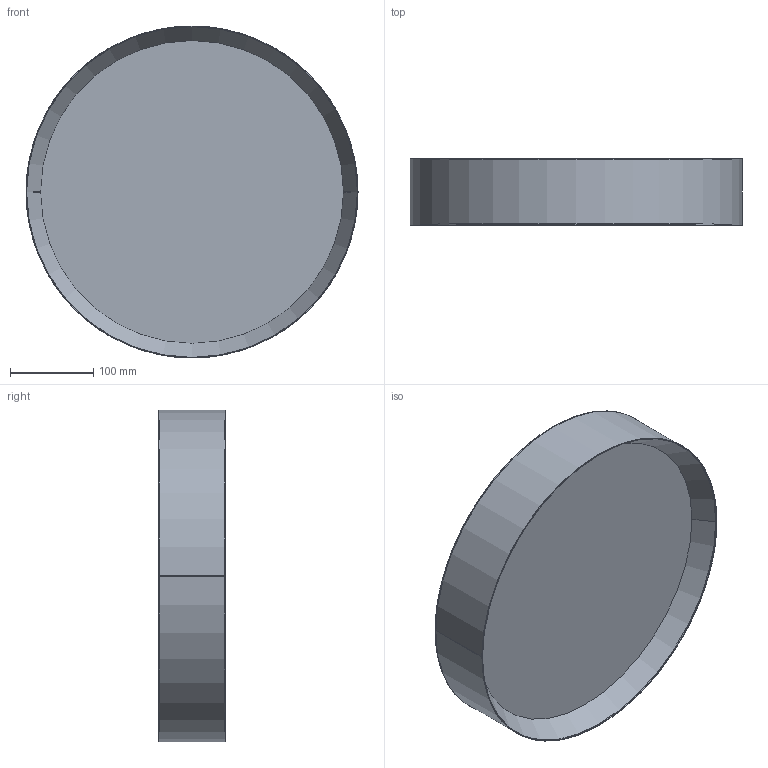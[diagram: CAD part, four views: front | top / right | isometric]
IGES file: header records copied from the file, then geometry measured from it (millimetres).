
Start section: SolidWorks IGES file using analytic representation for surfaces
Global section: file name: \\srvficheros\personales\o.domenech\3D\LIBRERIA_3D\Producto\MINSK-3758\MINSK-P37584\MINSK-P37584-3D.IGS; native system: SolidWorks 2023; preprocessor: SolidWorks 2023; author: o.domenech; date: 240718.131840; units: millimetre
Bounding box: 400 x 80 x 400 mm (x, y, z)
Surface area: 587706.4 mm2 (no closed solid volume)
Topology: 0 solids, 0 shells, 96 faces, 1682 edges, 1988 vertices
Faces by surface type: revolution 84, bspline 12
